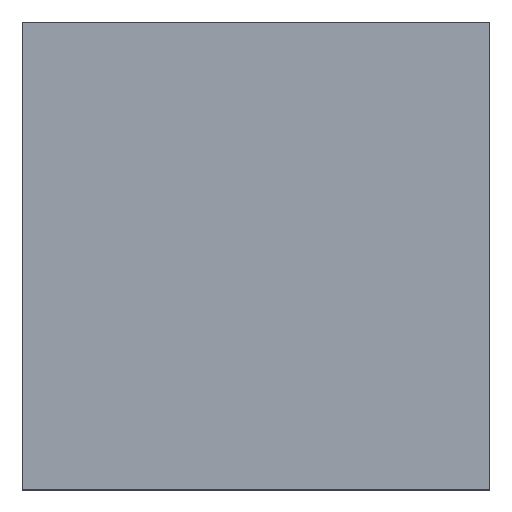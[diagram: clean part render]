
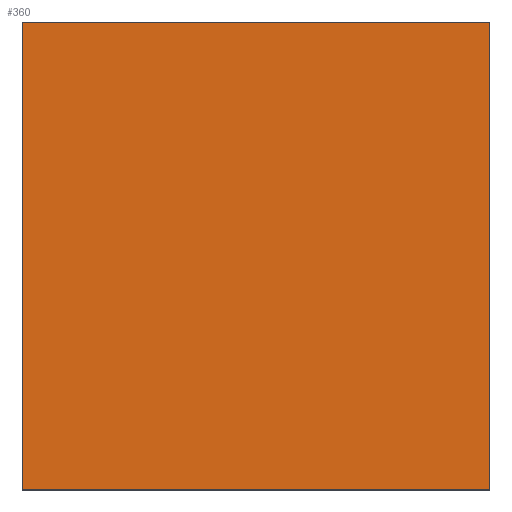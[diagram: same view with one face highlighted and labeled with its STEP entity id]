
A CAD part, top view. The second image highlights one B-rep face of the part: STEP entity #360.
In plain terms, the highlighted planar face has unit normal (0, 0, 1).
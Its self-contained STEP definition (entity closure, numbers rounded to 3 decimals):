
#46 = VERTEX_POINT('',#47);
#47 = CARTESIAN_POINT('',(-13.,-13.,2.));
#54 = PLANE('',#55);
#55 = AXIS2_PLACEMENT_3D('',#56,#57,#58);
#56 = CARTESIAN_POINT('',(-13.,-13.,-2.));
#57 = DIRECTION('',(1.,0.,-0.));
#58 = DIRECTION('',(0.,0.,1.));
#66 = PLANE('',#67);
#67 = AXIS2_PLACEMENT_3D('',#68,#69,#70);
#68 = CARTESIAN_POINT('',(-13.,-13.,-2.));
#69 = DIRECTION('',(-0.,1.,0.));
#70 = DIRECTION('',(0.,0.,1.));
#107 = VERTEX_POINT('',#108);
#108 = CARTESIAN_POINT('',(-13.,13.,2.));
#122 = PLANE('',#123);
#123 = AXIS2_PLACEMENT_3D('',#124,#125,#126);
#124 = CARTESIAN_POINT('',(-13.,13.,-2.));
#125 = DIRECTION('',(-0.,1.,0.));
#126 = DIRECTION('',(0.,0.,1.));
#134 = EDGE_CURVE('',#46,#107,#135,.T.);
#135 = SURFACE_CURVE('',#136,(#140,#147),.PCURVE_S1.);
#136 = LINE('',#137,#138);
#137 = CARTESIAN_POINT('',(-13.,-13.,2.));
#138 = VECTOR('',#139,1.);
#139 = DIRECTION('',(-0.,1.,0.));
#140 = PCURVE('',#54,#141);
#141 = DEFINITIONAL_REPRESENTATION('',(#142),#146);
#142 = LINE('',#143,#144);
#143 = CARTESIAN_POINT('',(4.,0.));
#144 = VECTOR('',#145,1.);
#145 = DIRECTION('',(0.,-1.));
#146 = ( GEOMETRIC_REPRESENTATION_CONTEXT(2) 
PARAMETRIC_REPRESENTATION_CONTEXT() REPRESENTATION_CONTEXT('2D SPACE',''
  ) );
#147 = PCURVE('',#148,#153);
#148 = PLANE('',#149);
#149 = AXIS2_PLACEMENT_3D('',#150,#151,#152);
#150 = CARTESIAN_POINT('',(-13.,-13.,2.));
#151 = DIRECTION('',(0.,0.,1.));
#152 = DIRECTION('',(1.,0.,-0.));
#153 = DEFINITIONAL_REPRESENTATION('',(#154),#158);
#154 = LINE('',#155,#156);
#155 = CARTESIAN_POINT('',(0.,0.));
#156 = VECTOR('',#157,1.);
#157 = DIRECTION('',(0.,1.));
#158 = ( GEOMETRIC_REPRESENTATION_CONTEXT(2) 
PARAMETRIC_REPRESENTATION_CONTEXT() REPRESENTATION_CONTEXT('2D SPACE',''
  ) );
#166 = VERTEX_POINT('',#167);
#167 = CARTESIAN_POINT('',(13.,-13.,2.));
#174 = PLANE('',#175);
#175 = AXIS2_PLACEMENT_3D('',#176,#177,#178);
#176 = CARTESIAN_POINT('',(13.,-13.,-2.));
#177 = DIRECTION('',(1.,0.,-0.));
#178 = DIRECTION('',(0.,0.,1.));
#217 = VERTEX_POINT('',#218);
#218 = CARTESIAN_POINT('',(13.,13.,2.));
#239 = EDGE_CURVE('',#166,#217,#240,.T.);
#240 = SURFACE_CURVE('',#241,(#245,#252),.PCURVE_S1.);
#241 = LINE('',#242,#243);
#242 = CARTESIAN_POINT('',(13.,-13.,2.));
#243 = VECTOR('',#244,1.);
#244 = DIRECTION('',(-0.,1.,0.));
#245 = PCURVE('',#174,#246);
#246 = DEFINITIONAL_REPRESENTATION('',(#247),#251);
#247 = LINE('',#248,#249);
#248 = CARTESIAN_POINT('',(4.,0.));
#249 = VECTOR('',#250,1.);
#250 = DIRECTION('',(0.,-1.));
#251 = ( GEOMETRIC_REPRESENTATION_CONTEXT(2) 
PARAMETRIC_REPRESENTATION_CONTEXT() REPRESENTATION_CONTEXT('2D SPACE',''
  ) );
#252 = PCURVE('',#148,#253);
#253 = DEFINITIONAL_REPRESENTATION('',(#254),#258);
#254 = LINE('',#255,#256);
#255 = CARTESIAN_POINT('',(26.,0.));
#256 = VECTOR('',#257,1.);
#257 = DIRECTION('',(0.,1.));
#258 = ( GEOMETRIC_REPRESENTATION_CONTEXT(2) 
PARAMETRIC_REPRESENTATION_CONTEXT() REPRESENTATION_CONTEXT('2D SPACE',''
  ) );
#285 = EDGE_CURVE('',#46,#166,#286,.T.);
#286 = SURFACE_CURVE('',#287,(#291,#298),.PCURVE_S1.);
#287 = LINE('',#288,#289);
#288 = CARTESIAN_POINT('',(-13.,-13.,2.));
#289 = VECTOR('',#290,1.);
#290 = DIRECTION('',(1.,0.,-0.));
#291 = PCURVE('',#66,#292);
#292 = DEFINITIONAL_REPRESENTATION('',(#293),#297);
#293 = LINE('',#294,#295);
#294 = CARTESIAN_POINT('',(4.,0.));
#295 = VECTOR('',#296,1.);
#296 = DIRECTION('',(0.,1.));
#297 = ( GEOMETRIC_REPRESENTATION_CONTEXT(2) 
PARAMETRIC_REPRESENTATION_CONTEXT() REPRESENTATION_CONTEXT('2D SPACE',''
  ) );
#298 = PCURVE('',#148,#299);
#299 = DEFINITIONAL_REPRESENTATION('',(#300),#304);
#300 = LINE('',#301,#302);
#301 = CARTESIAN_POINT('',(0.,0.));
#302 = VECTOR('',#303,1.);
#303 = DIRECTION('',(1.,0.));
#304 = ( GEOMETRIC_REPRESENTATION_CONTEXT(2) 
PARAMETRIC_REPRESENTATION_CONTEXT() REPRESENTATION_CONTEXT('2D SPACE',''
  ) );
#332 = EDGE_CURVE('',#107,#217,#333,.T.);
#333 = SURFACE_CURVE('',#334,(#338,#345),.PCURVE_S1.);
#334 = LINE('',#335,#336);
#335 = CARTESIAN_POINT('',(-13.,13.,2.));
#336 = VECTOR('',#337,1.);
#337 = DIRECTION('',(1.,0.,-0.));
#338 = PCURVE('',#122,#339);
#339 = DEFINITIONAL_REPRESENTATION('',(#340),#344);
#340 = LINE('',#341,#342);
#341 = CARTESIAN_POINT('',(4.,0.));
#342 = VECTOR('',#343,1.);
#343 = DIRECTION('',(0.,1.));
#344 = ( GEOMETRIC_REPRESENTATION_CONTEXT(2) 
PARAMETRIC_REPRESENTATION_CONTEXT() REPRESENTATION_CONTEXT('2D SPACE',''
  ) );
#345 = PCURVE('',#148,#346);
#346 = DEFINITIONAL_REPRESENTATION('',(#347),#351);
#347 = LINE('',#348,#349);
#348 = CARTESIAN_POINT('',(0.,26.));
#349 = VECTOR('',#350,1.);
#350 = DIRECTION('',(1.,0.));
#351 = ( GEOMETRIC_REPRESENTATION_CONTEXT(2) 
PARAMETRIC_REPRESENTATION_CONTEXT() REPRESENTATION_CONTEXT('2D SPACE',''
  ) );
#360 = ADVANCED_FACE('',(#361),#148,.T.);
#361 = FACE_BOUND('',#362,.T.);
#362 = EDGE_LOOP('',(#363,#364,#365,#366));
#363 = ORIENTED_EDGE('',*,*,#134,.F.);
#364 = ORIENTED_EDGE('',*,*,#285,.T.);
#365 = ORIENTED_EDGE('',*,*,#239,.T.);
#366 = ORIENTED_EDGE('',*,*,#332,.F.);
